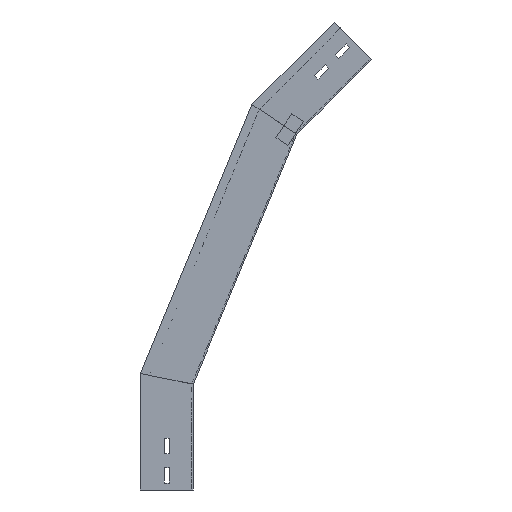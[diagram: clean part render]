
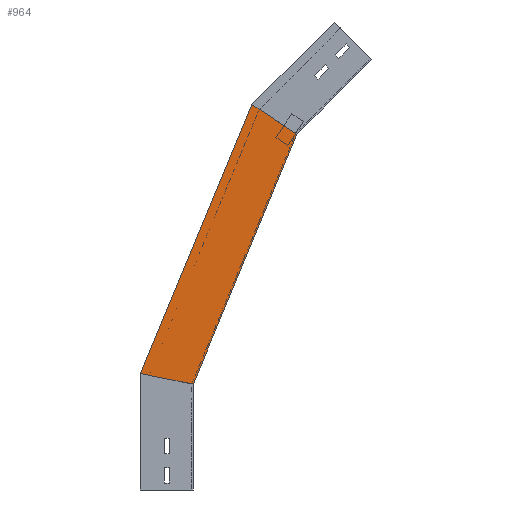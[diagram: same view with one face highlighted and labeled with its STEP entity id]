
A CAD part, left-side view. The second image highlights one B-rep face of the part: STEP entity #964.
In plain terms, the highlighted planar face has unit normal (-1, 0, 0) as drawn and (1, 0, 0) by its records, which use the part's own axes.
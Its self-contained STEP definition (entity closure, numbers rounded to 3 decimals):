
#44 = LINE ( 'NONE', #985, #1042 ) ;
#56 = PLANE ( 'NONE',  #1231 ) ;
#83 = EDGE_CURVE ( 'NONE', #621, #1083, #492, .T. ) ;
#115 = LINE ( 'NONE', #341, #1372 ) ;
#294 = EDGE_CURVE ( 'NONE', #621, #353, #115, .T. ) ;
#341 = CARTESIAN_POINT ( 'NONE',  ( 0., -28.701, 144.291 ) ) ;
#353 = VERTEX_POINT ( 'NONE', #812 ) ;
#395 = DIRECTION ( 'NONE',  ( 0., -0.383, 0.924 ) ) ;
#413 = FACE_OUTER_BOUND ( 'NONE', #432, .T. ) ;
#432 = EDGE_LOOP ( 'NONE', ( #1080, #1171, #1471, #1359 ) ) ;
#450 = DIRECTION ( 'NONE',  ( 0., -0.831, -0.556 ) ) ;
#492 = LINE ( 'NONE', #1421, #1099 ) ;
#521 = DIRECTION ( 'NONE',  ( 1., 0., 0. ) ) ;
#621 = VERTEX_POINT ( 'NONE', #930 ) ;
#812 = CARTESIAN_POINT ( 'NONE',  ( 0., 0., 150. ) ) ;
#817 = DIRECTION ( 'NONE',  ( 0., -0.981, -0.195 ) ) ;
#852 = DIRECTION ( 'NONE',  ( 0., -0.383, 0.924 ) ) ;
#888 = CARTESIAN_POINT ( 'NONE',  ( 0., 6.318, 134.746 ) ) ;
#930 = CARTESIAN_POINT ( 'NONE',  ( 0., 75., 164.918 ) ) ;
#964 = ADVANCED_FACE ( 'NONE', ( #413 ), #56, .T. ) ;
#982 = VERTEX_POINT ( 'NONE', #1253 ) ;
#985 = CARTESIAN_POINT ( 'NONE',  ( 0., 6.318, 134.746 ) ) ;
#988 = DIRECTION ( 'NONE',  ( 0., 0., -1. ) ) ;
#1029 = CARTESIAN_POINT ( 'NONE',  ( 0., -211.373, 460.544 ) ) ;
#1042 = VECTOR ( 'NONE', #395, 1000. ) ;
#1080 = ORIENTED_EDGE ( 'NONE', *, *, #83, .T. ) ;
#1083 = VERTEX_POINT ( 'NONE', #1315 ) ;
#1099 = VECTOR ( 'NONE', #852, 1000. ) ;
#1166 = EDGE_CURVE ( 'NONE', #1083, #982, #1379, .T. ) ;
#1171 = ORIENTED_EDGE ( 'NONE', *, *, #1166, .T. ) ;
#1174 = VECTOR ( 'NONE', #450, 1000. ) ;
#1231 = AXIS2_PLACEMENT_3D ( 'NONE', #888, #521, #988 ) ;
#1238 = EDGE_CURVE ( 'NONE', #353, #982, #44, .T. ) ;
#1253 = CARTESIAN_POINT ( 'NONE',  ( 0., -146.568, 503.846 ) ) ;
#1315 = CARTESIAN_POINT ( 'NONE',  ( 0., -82.986, 546.33 ) ) ;
#1359 = ORIENTED_EDGE ( 'NONE', *, *, #294, .F. ) ;
#1372 = VECTOR ( 'NONE', #817, 1000. ) ;
#1379 = LINE ( 'NONE', #1029, #1174 ) ;
#1421 = CARTESIAN_POINT ( 'NONE',  ( 0., 75.609, 163.448 ) ) ;
#1471 = ORIENTED_EDGE ( 'NONE', *, *, #1238, .F. ) ;
